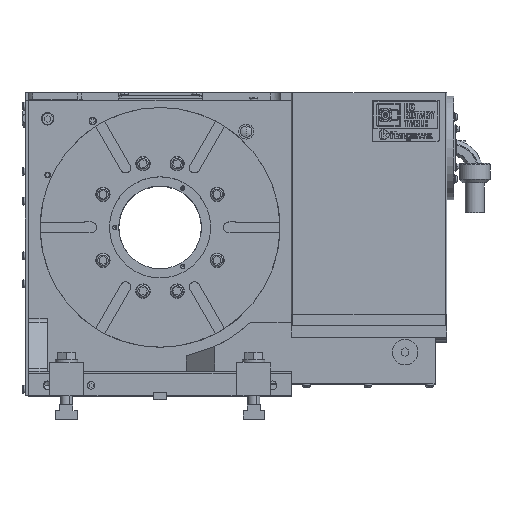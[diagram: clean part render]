
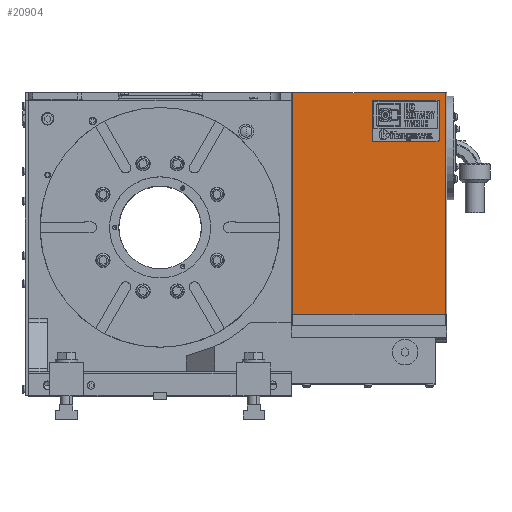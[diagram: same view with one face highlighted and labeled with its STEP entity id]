
A CAD part, top view. The second image highlights one B-rep face of the part: STEP entity #20904.
In plain terms, the highlighted planar face has unit normal (0, 0, 1).
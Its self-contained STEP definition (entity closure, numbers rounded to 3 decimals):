
#2254 = ORIENTED_EDGE ( 'NONE', *, *, #26969, .T. ) ;
#2846 = VERTEX_POINT ( 'NONE', #95313 ) ;
#3061 = EDGE_CURVE ( 'NONE', #94565, #2846, #36499, .T. ) ;
#12695 = VECTOR ( 'NONE', #99537, 1000. ) ;
#15874 = LINE ( 'NONE', #109604, #12695 ) ;
#20904 = ADVANCED_FACE ( 'NONE', ( #65102 ), #88505, .F. ) ;
#26969 = EDGE_CURVE ( 'NONE', #40063, #52209, #15874, .T. ) ;
#29642 = CARTESIAN_POINT ( 'NONE',  ( 206., 17.5, 0. ) ) ;
#31183 = CARTESIAN_POINT ( 'NONE',  ( 206., 0., 0. ) ) ;
#33640 = ORIENTED_EDGE ( 'NONE', *, *, #117107, .T. ) ;
#36499 = LINE ( 'NONE', #29642, #106864 ) ;
#39663 = DIRECTION ( 'NONE',  ( 0., 1., 0. ) ) ;
#40063 = VERTEX_POINT ( 'NONE', #53853 ) ;
#43662 = ORIENTED_EDGE ( 'NONE', *, *, #118074, .F. ) ;
#47849 = CARTESIAN_POINT ( 'NONE',  ( 2., 0., 0. ) ) ;
#48757 = DIRECTION ( 'NONE',  ( -1., 0., 0. ) ) ;
#52209 = VERTEX_POINT ( 'NONE', #47849 ) ;
#53853 = CARTESIAN_POINT ( 'NONE',  ( 2., 296.5, 0. ) ) ;
#63174 = AXIS2_PLACEMENT_3D ( 'NONE', #98624, #108667, #48757 ) ;
#65102 = FACE_OUTER_BOUND ( 'NONE', #109308, .T. ) ;
#66472 = ORIENTED_EDGE ( 'NONE', *, *, #3061, .T. ) ;
#73061 = VECTOR ( 'NONE', #94686, 1000. ) ;
#76229 = LINE ( 'NONE', #84580, #73061 ) ;
#80355 = DIRECTION ( 'NONE',  ( 1., 0., 0. ) ) ;
#84580 = CARTESIAN_POINT ( 'NONE',  ( 0., 0., 0. ) ) ;
#88281 = LINE ( 'NONE', #90458, #111766 ) ;
#88505 = PLANE ( 'NONE',  #63174 ) ;
#90458 = CARTESIAN_POINT ( 'NONE',  ( 0., 296.5, 0. ) ) ;
#94565 = VERTEX_POINT ( 'NONE', #31183 ) ;
#94686 = DIRECTION ( 'NONE',  ( 1., 0., 0. ) ) ;
#95313 = CARTESIAN_POINT ( 'NONE',  ( 206., 296.5, 0. ) ) ;
#98624 = CARTESIAN_POINT ( 'NONE',  ( 0., 17.5, 0. ) ) ;
#99537 = DIRECTION ( 'NONE',  ( 0., -1., 0. ) ) ;
#106864 = VECTOR ( 'NONE', #39663, 1000. ) ;
#108667 = DIRECTION ( 'NONE',  ( 0., 0., -1. ) ) ;
#109308 = EDGE_LOOP ( 'NONE', ( #43662, #2254, #33640, #66472 ) ) ;
#109604 = CARTESIAN_POINT ( 'NONE',  ( 2., 17.5, 0. ) ) ;
#111766 = VECTOR ( 'NONE', #80355, 1000. ) ;
#117107 = EDGE_CURVE ( 'NONE', #52209, #94565, #76229, .T. ) ;
#118074 = EDGE_CURVE ( 'NONE', #40063, #2846, #88281, .T. ) ;
